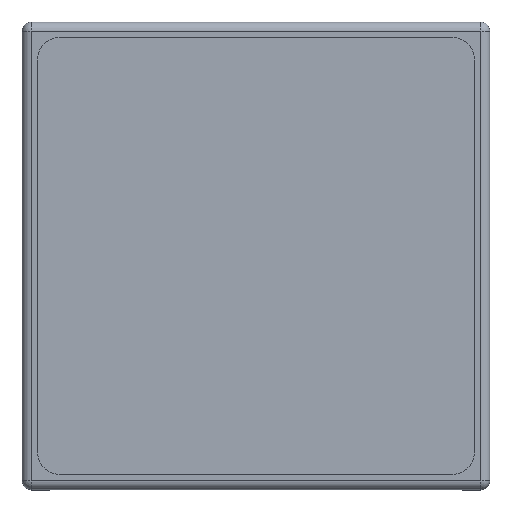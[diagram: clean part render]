
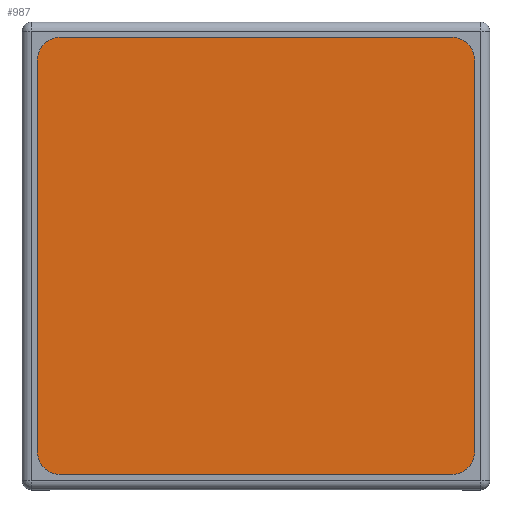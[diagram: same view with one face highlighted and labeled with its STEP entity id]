
A CAD part, top view. The second image highlights one B-rep face of the part: STEP entity #987.
In plain terms, the highlighted planar face has unit normal (0, 0, 1).
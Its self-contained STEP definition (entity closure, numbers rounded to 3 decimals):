
#781=CARTESIAN_POINT('',(-12.527,41.458,15.95));
#782=VERTEX_POINT('',#781);
#783=CARTESIAN_POINT('',(-15.027,38.958,15.95));
#784=VERTEX_POINT('',#783);
#785=CARTESIAN_POINT('',(-12.527,38.958,15.95));
#786=DIRECTION('',(0.0,0.0,1.0));
#787=DIRECTION('',(0.0,-1.0,0.0));
#788=AXIS2_PLACEMENT_3D('',#785,#786,#787);
#789=CIRCLE('',#788,2.5);
#790=EDGE_CURVE('',#782,#784,#789,.T.);
#813=CARTESIAN_POINT('',(-15.027,-3.542,15.95));
#814=VERTEX_POINT('',#813);
#815=CARTESIAN_POINT('',(-15.027,38.958,15.95));
#816=DIRECTION('',(0.0,-1.0,0.0));
#817=VECTOR('',#816,42.5);
#818=LINE('',#815,#817);
#819=EDGE_CURVE('',#784,#814,#818,.T.);
#837=CARTESIAN_POINT('',(-12.527,-6.042,15.95));
#838=VERTEX_POINT('',#837);
#839=CARTESIAN_POINT('',(-12.527,-3.542,15.95));
#840=DIRECTION('',(0.0,0.0,1.0));
#841=DIRECTION('',(1.0,0.0,0.0));
#842=AXIS2_PLACEMENT_3D('',#839,#840,#841);
#843=CIRCLE('',#842,2.5);
#844=EDGE_CURVE('',#814,#838,#843,.T.);
#862=CARTESIAN_POINT('',(29.973,-6.042,15.95));
#863=VERTEX_POINT('',#862);
#864=CARTESIAN_POINT('',(-12.527,-6.042,15.95));
#865=DIRECTION('',(1.0,0.0,0.0));
#866=VECTOR('',#865,42.5);
#867=LINE('',#864,#866);
#868=EDGE_CURVE('',#838,#863,#867,.T.);
#886=CARTESIAN_POINT('',(32.473,-3.542,15.95));
#887=VERTEX_POINT('',#886);
#888=CARTESIAN_POINT('',(29.973,-3.542,15.95));
#889=DIRECTION('',(0.0,0.0,1.0));
#890=DIRECTION('',(0.0,1.0,0.0));
#891=AXIS2_PLACEMENT_3D('',#888,#889,#890);
#892=CIRCLE('',#891,2.5);
#893=EDGE_CURVE('',#863,#887,#892,.T.);
#911=CARTESIAN_POINT('',(32.473,38.958,15.95));
#912=VERTEX_POINT('',#911);
#913=CARTESIAN_POINT('',(32.473,-3.542,15.95));
#914=DIRECTION('',(0.0,1.0,0.0));
#915=VECTOR('',#914,42.5);
#916=LINE('',#913,#915);
#917=EDGE_CURVE('',#887,#912,#916,.T.);
#935=CARTESIAN_POINT('',(29.973,41.458,15.95));
#936=VERTEX_POINT('',#935);
#937=CARTESIAN_POINT('',(29.973,38.958,15.95));
#938=DIRECTION('',(0.0,0.0,1.0));
#939=DIRECTION('',(-1.0,0.0,0.0));
#940=AXIS2_PLACEMENT_3D('',#937,#938,#939);
#941=CIRCLE('',#940,2.5);
#942=EDGE_CURVE('',#912,#936,#941,.T.);
#960=CARTESIAN_POINT('',(29.973,41.458,15.95));
#961=DIRECTION('',(-1.0,0.0,0.0));
#962=VECTOR('',#961,42.5);
#963=LINE('',#960,#962);
#964=EDGE_CURVE('',#936,#782,#963,.T.);
#972=CARTESIAN_POINT('',(8.723,17.708,15.95));
#973=DIRECTION('',(0.0,0.0,1.0));
#974=DIRECTION('',(1.0,0.0,0.0));
#975=AXIS2_PLACEMENT_3D('',#972,#973,#974);
#976=PLANE('',#975);
#977=ORIENTED_EDGE('',*,*,#790,.T.);
#978=ORIENTED_EDGE('',*,*,#819,.T.);
#979=ORIENTED_EDGE('',*,*,#844,.T.);
#980=ORIENTED_EDGE('',*,*,#868,.T.);
#981=ORIENTED_EDGE('',*,*,#893,.T.);
#982=ORIENTED_EDGE('',*,*,#917,.T.);
#983=ORIENTED_EDGE('',*,*,#942,.T.);
#984=ORIENTED_EDGE('',*,*,#964,.T.);
#985=EDGE_LOOP('',(#977,#978,#979,#980,#981,#982,#983,#984));
#986=FACE_OUTER_BOUND('',#985,.T.);
#987=ADVANCED_FACE('',(#986),#976,.T.);
